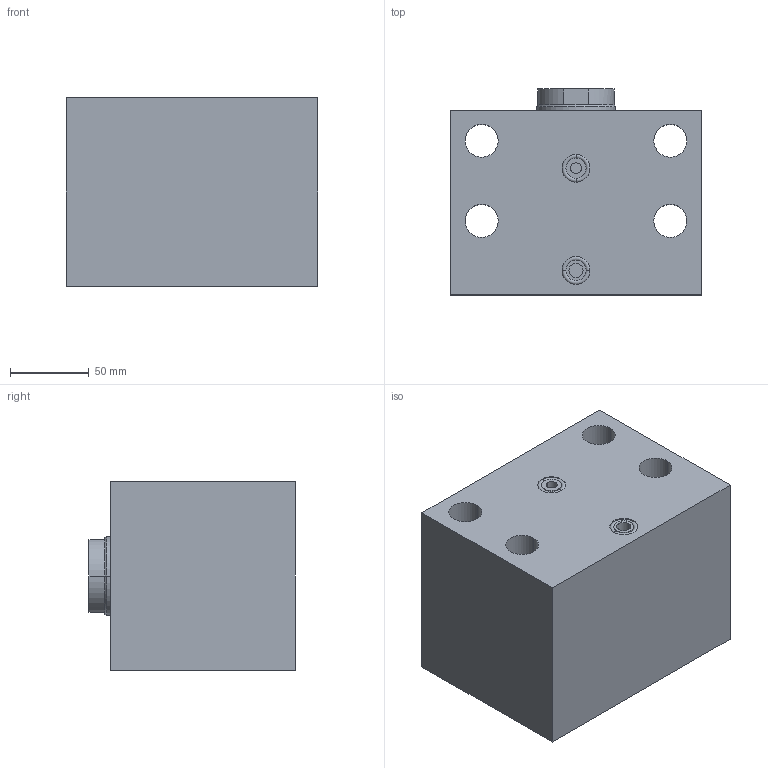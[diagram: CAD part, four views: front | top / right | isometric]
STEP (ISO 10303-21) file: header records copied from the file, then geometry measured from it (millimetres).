
FILE_DESCRIPTION (( 'STEP AP203' ), '1' );
FILE_NAME ('GERMA_Blockzylinder_603-080-032.STEP', '2016-01-25T09:43:20', ( '' ), ( '' ), 'SwSTEP 2.0', 'SolidWorks 2015', '' );
FILE_SCHEMA (( 'CONFIG_CONTROL_DESIGN' ));
Length unit declared in the file: millimetre
Products named in the file (3): Kolben 60x-080_Kolben DU.80-Hub32-IG; GERMA_Blockzylinder_603-080-032; GH-600-080_GH-603-080-032
Assembly tree (2 placements, depth 2):
  GERMA_Blockzylinder_603-080-032
    GH-600-080_GH-603-080-032
    Kolben 60x-080_Kolben DU.80-Hub32-IG
Bounding box: 160 x 131 x 120 mm (x, y, z)
Volume: 1976701.8 mm3; surface area: 196960.9 mm2
Topology: 2 solids, 2 shells, 81 faces, 176 edges, 106 vertices
Faces by surface type: cylinder 41, plane 22, cone 14, torus 4
Entity records: 2506 total; most frequent: DIRECTION 439, CARTESIAN_POINT 362, ORIENTED_EDGE 340, AXIS2_PLACEMENT_3D 183, EDGE_CURVE 170, VERTEX_POINT 106, EDGE_LOOP 102, CIRCLE 97
